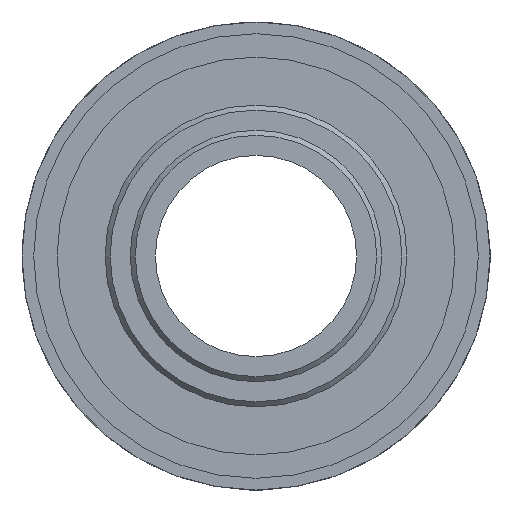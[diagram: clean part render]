
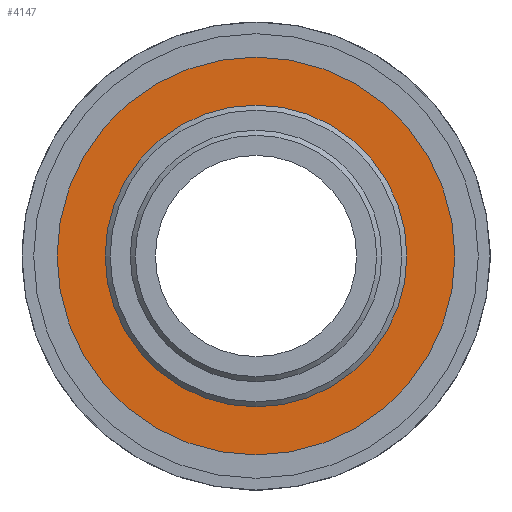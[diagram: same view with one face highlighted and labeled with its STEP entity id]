
A CAD part, left-side view. The second image highlights one B-rep face of the part: STEP entity #4147.
In plain terms, the highlighted planar face has unit normal (-1, 0, 0).
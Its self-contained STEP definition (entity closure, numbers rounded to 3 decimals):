
#290=FACE_BOUND('',#857,.T.);
#312=CIRCLE('',#4440,16.575);
#564=FACE_OUTER_BOUND('',#856,.T.);
#856=EDGE_LOOP('',(#2781));
#857=EDGE_LOOP('',(#2782,#2783,#2784,#2785,#2786,#2787,#2788,#2789,#2790,
#2791,#2792,#2793));
#1132=LINE('',#6226,#1408);
#1136=LINE('',#6234,#1412);
#1139=LINE('',#6240,#1415);
#1142=LINE('',#6246,#1418);
#1145=LINE('',#6252,#1421);
#1148=LINE('',#6258,#1424);
#1151=LINE('',#6264,#1427);
#1154=LINE('',#6270,#1430);
#1158=LINE('',#6278,#1434);
#1162=LINE('',#6287,#1438);
#1164=LINE('',#6290,#1440);
#1167=LINE('',#6294,#1443);
#1408=VECTOR('',#4926,0.363);
#1412=VECTOR('',#4932,10.058);
#1415=VECTOR('',#4937,0.363);
#1418=VECTOR('',#4942,10.058);
#1421=VECTOR('',#4947,0.363);
#1424=VECTOR('',#4952,10.058);
#1427=VECTOR('',#4957,0.363);
#1430=VECTOR('',#4962,10.058);
#1434=VECTOR('',#4968,0.363);
#1438=VECTOR('',#4974,0.363);
#1440=VECTOR('',#4978,10.058);
#1443=VECTOR('',#4983,10.058);
#1684=VERTEX_POINT('',#6224);
#1685=VERTEX_POINT('',#6225);
#1688=VERTEX_POINT('',#6233);
#1690=VERTEX_POINT('',#6239);
#1692=VERTEX_POINT('',#6245);
#1694=VERTEX_POINT('',#6251);
#1696=VERTEX_POINT('',#6257);
#1698=VERTEX_POINT('',#6263);
#1700=VERTEX_POINT('',#6269);
#1703=VERTEX_POINT('',#6277);
#1706=VERTEX_POINT('',#6284);
#1707=VERTEX_POINT('',#6286);
#1716=VERTEX_POINT('',#6320);
#2064=EDGE_CURVE('',#1684,#1685,#1132,.F.);
#2068=EDGE_CURVE('',#1688,#1685,#1136,.T.);
#2071=EDGE_CURVE('',#1688,#1690,#1139,.F.);
#2074=EDGE_CURVE('',#1692,#1690,#1142,.T.);
#2077=EDGE_CURVE('',#1692,#1694,#1145,.F.);
#2080=EDGE_CURVE('',#1696,#1694,#1148,.T.);
#2083=EDGE_CURVE('',#1696,#1698,#1151,.F.);
#2086=EDGE_CURVE('',#1700,#1698,#1154,.T.);
#2090=EDGE_CURVE('',#1700,#1703,#1158,.F.);
#2094=EDGE_CURVE('',#1706,#1707,#1162,.F.);
#2096=EDGE_CURVE('',#1706,#1703,#1164,.T.);
#2099=EDGE_CURVE('',#1684,#1707,#1167,.T.);
#2108=EDGE_CURVE('',#1716,#1716,#312,.T.);
#2781=ORIENTED_EDGE('',*,*,#2108,.F.);
#2782=ORIENTED_EDGE('',*,*,#2086,.T.);
#2783=ORIENTED_EDGE('',*,*,#2083,.F.);
#2784=ORIENTED_EDGE('',*,*,#2080,.T.);
#2785=ORIENTED_EDGE('',*,*,#2077,.F.);
#2786=ORIENTED_EDGE('',*,*,#2074,.T.);
#2787=ORIENTED_EDGE('',*,*,#2071,.F.);
#2788=ORIENTED_EDGE('',*,*,#2068,.T.);
#2789=ORIENTED_EDGE('',*,*,#2064,.F.);
#2790=ORIENTED_EDGE('',*,*,#2099,.T.);
#2791=ORIENTED_EDGE('',*,*,#2094,.F.);
#2792=ORIENTED_EDGE('',*,*,#2096,.T.);
#2793=ORIENTED_EDGE('',*,*,#2090,.F.);
#3999=PLANE('',#4442);
#4147=ADVANCED_FACE('',(#564,#290),#3999,.F.);
#4440=AXIS2_PLACEMENT_3D('',#6321,#5018,#5019);
#4442=AXIS2_PLACEMENT_3D('',#6324,#5022,#5023);
#4926=DIRECTION('',(0.,0.866,0.5));
#4932=DIRECTION('',(0.,1.,0.));
#4937=DIRECTION('',(0.,0.866,-0.5));
#4942=DIRECTION('',(0.,0.5,-0.866));
#4947=DIRECTION('',(0.,0.,-1.));
#4952=DIRECTION('',(0.,-0.5,-0.866));
#4957=DIRECTION('',(0.,-0.866,-0.5));
#4962=DIRECTION('',(0.,-1.,0.));
#4968=DIRECTION('',(0.,-0.866,0.5));
#4974=DIRECTION('',(0.,0.,1.));
#4978=DIRECTION('',(0.,-0.5,0.866));
#4983=DIRECTION('',(0.,0.5,0.866));
#5018=DIRECTION('center_axis',(1.,0.,0.));
#5019=DIRECTION('ref_axis',(0.,0.,-1.));
#5022=DIRECTION('center_axis',(1.,0.,0.));
#5023=DIRECTION('ref_axis',(0.,0.,-1.));
#6224=CARTESIAN_POINT('',(5.275,5.344,-8.892));
#6225=CARTESIAN_POINT('',(5.275,5.029,-9.074));
#6226=CARTESIAN_POINT('',(5.275,5.186,-8.983));
#6233=CARTESIAN_POINT('',(5.275,-5.029,-9.074));
#6234=CARTESIAN_POINT('',(5.275,-2.619,-9.074));
#6239=CARTESIAN_POINT('',(5.275,-5.344,-8.892));
#6240=CARTESIAN_POINT('',(5.275,-5.186,-8.983));
#6245=CARTESIAN_POINT('',(5.275,-10.373,-0.181));
#6246=CARTESIAN_POINT('',(5.275,-9.168,-2.268));
#6251=CARTESIAN_POINT('',(5.275,-10.373,0.181));
#6252=CARTESIAN_POINT('',(5.275,-10.373,0.));
#6257=CARTESIAN_POINT('',(5.275,-5.344,8.892));
#6258=CARTESIAN_POINT('',(5.275,-6.548,6.805));
#6263=CARTESIAN_POINT('',(5.275,-5.029,9.074));
#6264=CARTESIAN_POINT('',(5.275,-5.186,8.983));
#6269=CARTESIAN_POINT('',(5.275,5.029,9.074));
#6270=CARTESIAN_POINT('',(5.275,2.619,9.074));
#6277=CARTESIAN_POINT('',(5.275,5.344,8.892));
#6278=CARTESIAN_POINT('',(5.275,5.186,8.983));
#6284=CARTESIAN_POINT('',(5.275,10.373,0.181));
#6286=CARTESIAN_POINT('',(5.275,10.373,-0.181));
#6287=CARTESIAN_POINT('',(5.275,10.373,0.));
#6290=CARTESIAN_POINT('',(5.275,9.168,2.268));
#6294=CARTESIAN_POINT('',(5.275,6.548,-6.805));
#6320=CARTESIAN_POINT('',(5.275,0.,16.575));
#6321=CARTESIAN_POINT('Origin',(5.275,0.,0.));
#6324=CARTESIAN_POINT('Origin',(5.275,0.,0.));
